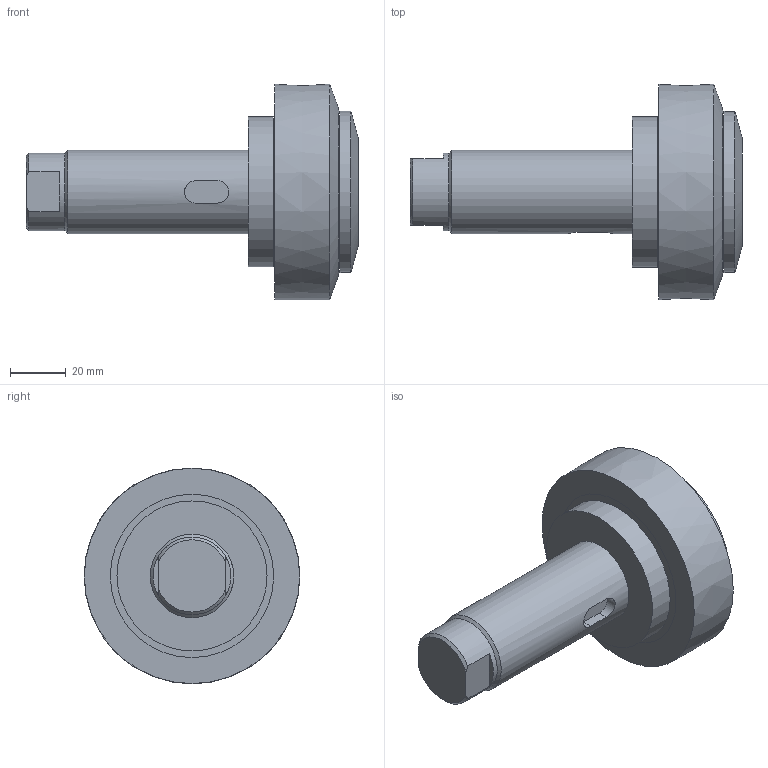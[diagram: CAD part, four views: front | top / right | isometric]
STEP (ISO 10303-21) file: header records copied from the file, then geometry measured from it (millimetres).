
FILE_DESCRIPTION(/* description */ ('-','CAx-IF Rec.Pracs.---Representation and Presentation of Product Manufacturing Information (PMI)---4.0---2014-10-13'),/* implementation_level */ '2;1');
FILE_NAME(/* name */ 'c:\temp\43b33540-39af-4d46-99b1-2549ffc79588\febf8cfa-a5b7-4e1b-982a-43347f89b591.stp',/* time_stamp */ '2020-05-28T11:37:55+02:00',/* author */ ('-'),/* organization */ ('NTI CADcenter A/S'),/* preprocessor_version */ 'ST-DEVELOPER v18',/* originating_system */ 'Autodesk Inventor 2020',/* authorisation */ '-');
FILE_SCHEMA (('AP242_MANAGED_MODEL_BASED_3D_ENGINEERING_MIM_LF { 1 0 10303 442 1 1 4 }'));
Length unit declared in the file: millimetre
Products named in the file (1): TR 080.1360_Kontur
Bounding box: 119.5 x 77.6 x 77.65 mm (x, y, z)
Volume: 304375.5 mm3; surface area: 63362.5 mm2
Topology: 7 solids, 7 shells, 50 faces, 105 edges, 76 vertices
Faces by surface type: plane 27, cylinder 15, cone 7, bspline 1
Full cylindrical faces by diameter (mm): 28 x1, 30 x1, 32.9 x1, 46 x1, 52 x2, 52.5 x1, 54 x1, 55 x1, 56.5 x1, 58 x1, 58.8 x2
Entity records: 1588 total; most frequent: CARTESIAN_POINT 330, DIRECTION 264, ORIENTED_EDGE 210, AXIS2_PLACEMENT_3D 115, EDGE_CURVE 105, VERTEX_POINT 76, CIRCLE 65, EDGE_LOOP 57
